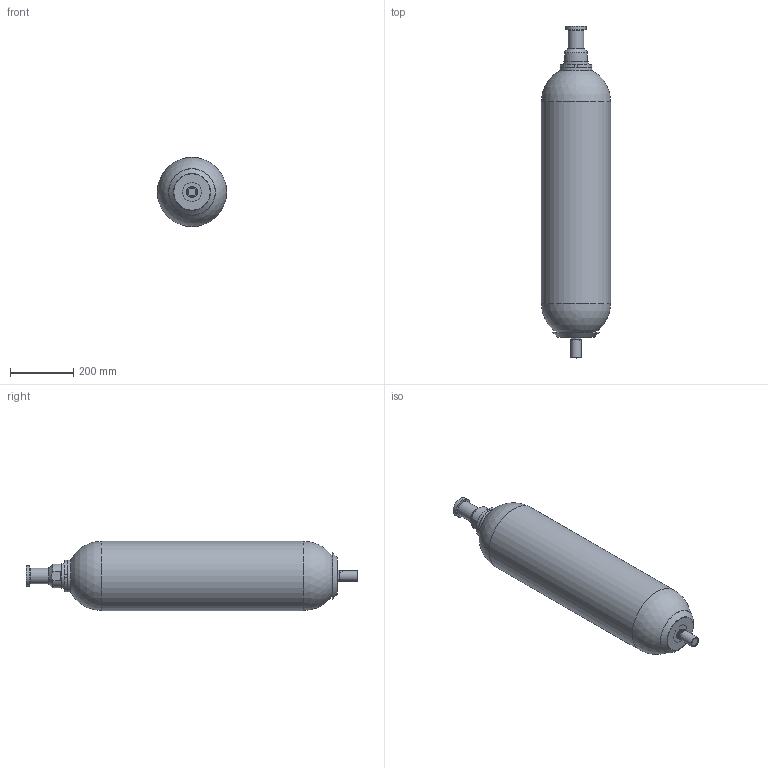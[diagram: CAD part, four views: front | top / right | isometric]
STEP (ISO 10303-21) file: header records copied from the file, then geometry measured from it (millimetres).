
FILE_DESCRIPTION((''),'2;1');
FILE_NAME('F:\STEP\ALLEGE\GAMME_EHVF_350&330&250bar\EHVF_24L5_330_90.stp','2011-03-04T10:31:54',('laurent.simeon'),(''),'Autodesk Inventor 2011','Autodesk Inventor 2011','');
FILE_SCHEMA(('AUTOMOTIVE_DESIGN { 1 0 10303 214 1 1 1 1 }'));
Length unit declared in the file: millimetre
Products named in the file (39): EHVF_24L5_330_90; CA108362-00190; VA108479-01626; VA108473-01626; VA108439-01600; VA108437-01600; PI108438-01600; RE100758-01200; JT104172-00023; JP102452-00026; ET106134-02600; BOUCHON DE VALVE; BO100759-02600; JP101164-00020; JOINT PLAT; PF108368-05200; EC102958-00200; BP102851-00200; BOUCHON DE PROTECTION; BOUCHON PLASTIQUE; BC110335-00220; BE105544-00200; EC100990-00200; BM110333-00200; CB110083-00200
Assembly tree (38 placements, depth 5):
  EHVF_24L5_330_90
    CA108362-00190
      CA108362-00190
    VA108479-01626
      VA108473-01626
        VA108439-01600
          VA108439-01600
        VA108437-01600
          VA108437-01600
        PI108438-01600
          PI108438-01600
        RE100758-01200
          RE100758-01200
        JT104172-00023
          JT104172-00023
        JP102452-00026
          JP102452-00026
        ET106134-02600
          ET106134-02600
      BOUCHON DE VALVE
        BO100759-02600
          BO100759-02600
        JP101164-00020
          JOINT PLAT
    PF108368-05200
      PF108368-05200
    EC102958-00200
      EC102958-00200
    BP102851-00200
      BOUCHON DE PROTECTION
      BOUCHON PLASTIQUE
    BC110335-00220
      BE105544-00200
        BE105544-00200
      EC100990-00200
        EC100990-00200
      BM110333-00200
        CB110083-00200
          CB110083-00200
Bounding box: 219.1 x 1052.2 x 219.1 mm (x, y, z)
Volume: 5587260.2 mm3; surface area: 1287730.1 mm2
Topology: 23 solids, 23 shells, 682 faces, 1625 edges, 995 vertices
Faces by surface type: bspline 207, cylinder 186, plane 150, cone 79, torus 56, sphere 4
Full cylindrical faces by diameter (mm): 0.8 x1, 1.7 x1, 2 x1, 2.2 x1, 3.8 x1, 3.9 x1, 4.6 x1, 6.2 x1, 6.5 x1, 9 x3, 10 x1, 11.1 x1, 11.33 x1, 12 x1, 12.667 x1, 13 x8, 14.46 x1, 15.83 x1, 16 x2, 18 x1, 20 x1, 20.68 x1, 22 x1, 22.5 x1, 25 x1, 28.5 x2, 29.5 x1, 30.05 x1, 31 x1, 33.6 x1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
Entity records: 30076 total; most frequent: CARTESIAN_POINT 15332, ORIENTED_EDGE 2870, DIRECTION 2586, EDGE_CURVE 1435, AXIS2_PLACEMENT_3D 1137, VERTEX_POINT 937, EDGE_LOOP 894, FACE_OUTER_BOUND 681
